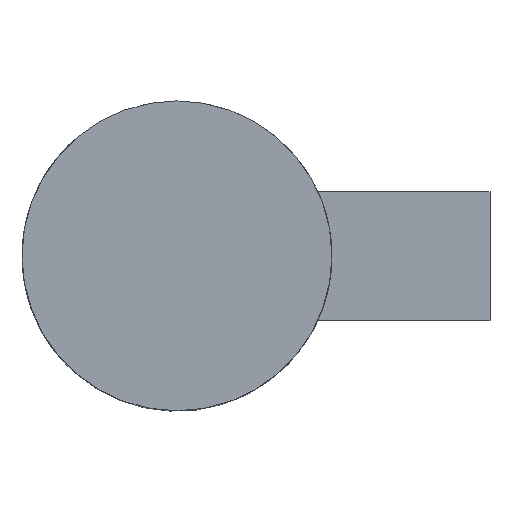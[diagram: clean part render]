
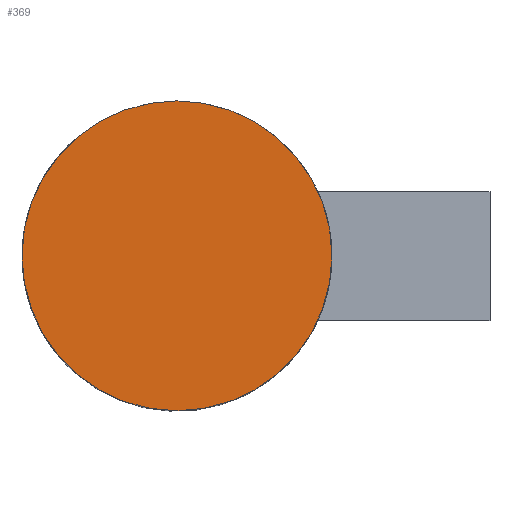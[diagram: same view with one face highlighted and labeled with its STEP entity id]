
A CAD part, top view. The second image highlights one B-rep face of the part: STEP entity #369.
In plain terms, the highlighted planar face has unit normal (0, 0, 1).
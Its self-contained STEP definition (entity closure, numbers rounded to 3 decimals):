
#27 = CIRCLE ( 'NONE', #445, 9. ) ;
#58 = PLANE ( 'NONE',  #376 ) ;
#76 = VERTEX_POINT ( 'NONE', #196 ) ;
#117 = CARTESIAN_POINT ( 'NONE',  ( 0., 0., 8. ) ) ;
#158 = EDGE_CURVE ( 'NONE', #161, #76, #469, .T. ) ;
#161 = VERTEX_POINT ( 'NONE', #323 ) ;
#165 = DIRECTION ( 'NONE',  ( 1., 0., 0. ) ) ;
#175 = ORIENTED_EDGE ( 'NONE', *, *, #158, .T. ) ;
#196 = CARTESIAN_POINT ( 'NONE',  ( -9., 0., 8. ) ) ;
#218 = EDGE_CURVE ( 'NONE', #76, #161, #27, .T. ) ;
#231 = DIRECTION ( 'NONE',  ( 0., 0., 1. ) ) ;
#233 = AXIS2_PLACEMENT_3D ( 'NONE', #117, #531, #464 ) ;
#295 = CARTESIAN_POINT ( 'NONE',  ( 0., 0., 8. ) ) ;
#323 = CARTESIAN_POINT ( 'NONE',  ( 9., 0., 8. ) ) ;
#369 = ADVANCED_FACE ( 'NONE', ( #428 ), #58, .T. ) ;
#376 = AXIS2_PLACEMENT_3D ( 'NONE', #295, #231, #165 ) ;
#421 = DIRECTION ( 'NONE',  ( 1., 0., 0. ) ) ;
#428 = FACE_OUTER_BOUND ( 'NONE', #442, .T. ) ;
#442 = EDGE_LOOP ( 'NONE', ( #545, #175 ) ) ;
#445 = AXIS2_PLACEMENT_3D ( 'NONE', #554, #489, #421 ) ;
#464 = DIRECTION ( 'NONE',  ( 1., 0., 0. ) ) ;
#469 = CIRCLE ( 'NONE', #233, 9. ) ;
#489 = DIRECTION ( 'NONE',  ( 0., 0., 1. ) ) ;
#531 = DIRECTION ( 'NONE',  ( 0., 0., 1. ) ) ;
#545 = ORIENTED_EDGE ( 'NONE', *, *, #218, .T. ) ;
#554 = CARTESIAN_POINT ( 'NONE',  ( 0., 0., 8. ) ) ;
